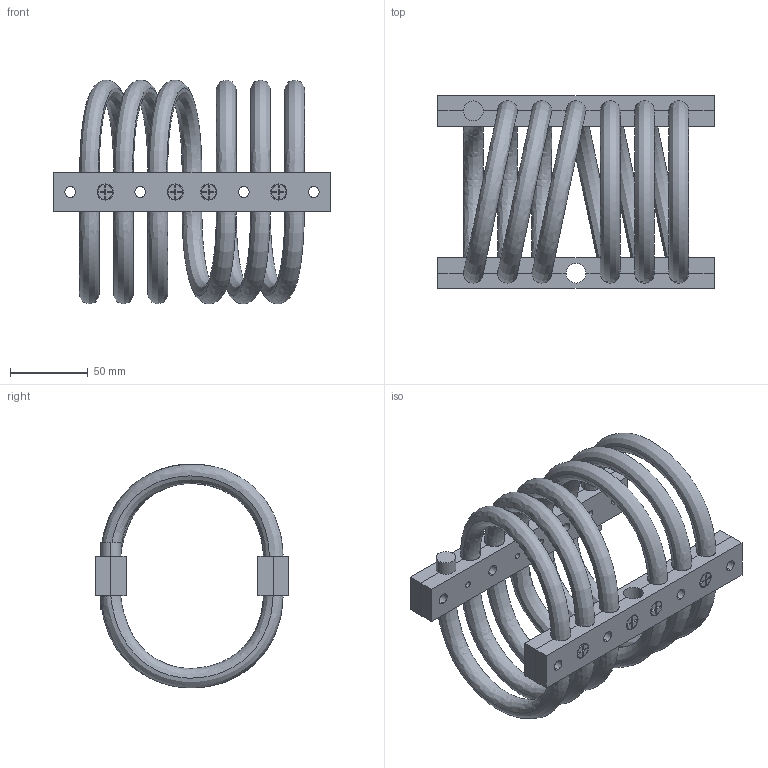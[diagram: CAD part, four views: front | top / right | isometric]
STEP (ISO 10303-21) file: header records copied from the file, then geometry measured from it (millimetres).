
FILE_DESCRIPTION (( 'STEP AP214' ), '1' );
FILE_NAME ('WR16-806-6DM.STEP', '2018-12-07T10:05:49', ( 'user' ), ( 'Microsoft' ), 'SwSTEP 2.0', 'SolidWorks 2016', '' );
FILE_SCHEMA (( 'AUTOMOTIVE_DESIGN' ));
Length unit declared in the file: millimetre
Products named in the file (1): WR16-806-6DM
Bounding box: 177.8 x 124 x 143.97 mm (x, y, z)
Volume: 448072.4 mm3; surface area: 166506.9 mm2
Topology: 26 solids, 26 shells, 484 faces, 1166 edges, 758 vertices
Faces by surface type: plane 216, cylinder 194, cone 48, bspline 26
Entity records: 26270 total; most frequent: CARTESIAN_POINT 13842, DIRECTION 2348, ORIENTED_EDGE 2332, EDGE_CURVE 1166, AXIS2_PLACEMENT_3D 843, VERTEX_POINT 758, LINE 662, VECTOR 662
